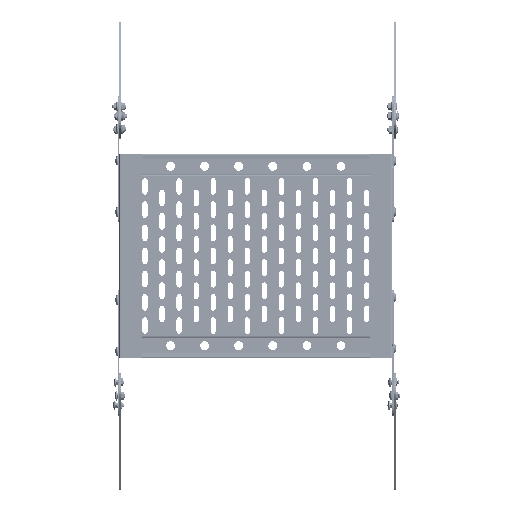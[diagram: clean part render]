
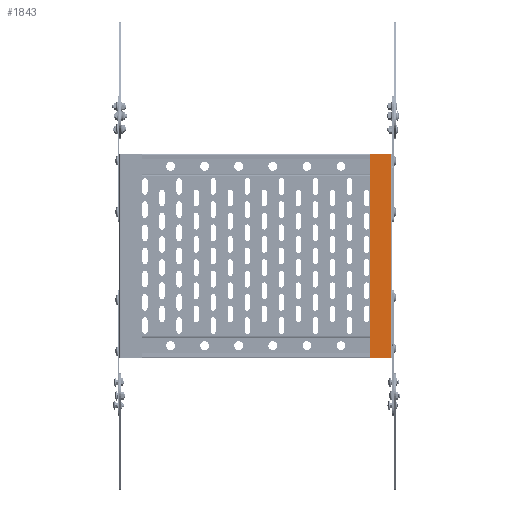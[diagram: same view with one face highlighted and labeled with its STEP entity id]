
A CAD part, front view. The second image highlights one B-rep face of the part: STEP entity #1843.
In plain terms, the highlighted planar face has unit normal (0, -1, 0).
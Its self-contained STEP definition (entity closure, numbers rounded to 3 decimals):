
#673 = CARTESIAN_POINT ( 'NONE',  ( -31.5, -1.5, -150. ) ) ;
#1843 = ADVANCED_FACE ( 'NONE', ( #28223 ), #20596, .T. ) ;
#1883 = LINE ( 'NONE', #12143, #2804 ) ;
#2804 = VECTOR ( 'NONE', #34987, 1000. ) ;
#3665 = EDGE_CURVE ( 'NONE', #23501, #5212, #5398, .T. ) ;
#5212 = VERTEX_POINT ( 'NONE', #17701 ) ;
#5398 = LINE ( 'NONE', #9052, #27387 ) ;
#6178 = DIRECTION ( 'NONE',  ( 1., 0., 0. ) ) ;
#9052 = CARTESIAN_POINT ( 'NONE',  ( 0., -1.5, -150. ) ) ;
#9196 = DIRECTION ( 'NONE',  ( 1., 0., 0. ) ) ;
#12143 = CARTESIAN_POINT ( 'NONE',  ( -31.5, -1.5, -150. ) ) ;
#12331 = AXIS2_PLACEMENT_3D ( 'NONE', #23362, #26390, #9196 ) ;
#13200 = EDGE_CURVE ( 'NONE', #23501, #17912, #1883, .T. ) ;
#15928 = VECTOR ( 'NONE', #27582, 1000. ) ;
#17256 = EDGE_CURVE ( 'NONE', #17912, #32124, #22694, .T. ) ;
#17701 = CARTESIAN_POINT ( 'NONE',  ( 0., -1.5, -150. ) ) ;
#17912 = VERTEX_POINT ( 'NONE', #18872 ) ;
#18872 = CARTESIAN_POINT ( 'NONE',  ( -31.5, -1.5, 150. ) ) ;
#20596 = PLANE ( 'NONE',  #12331 ) ;
#22694 = LINE ( 'NONE', #32902, #37092 ) ;
#23133 = CARTESIAN_POINT ( 'NONE',  ( 0., -1.5, 150. ) ) ;
#23362 = CARTESIAN_POINT ( 'NONE',  ( 0., -1.5, -150. ) ) ;
#23501 = VERTEX_POINT ( 'NONE', #673 ) ;
#24697 = CARTESIAN_POINT ( 'NONE',  ( 0., -1.5, -150. ) ) ;
#26390 = DIRECTION ( 'NONE',  ( 0., -1., 0. ) ) ;
#27106 = ORIENTED_EDGE ( 'NONE', *, *, #17256, .F. ) ;
#27387 = VECTOR ( 'NONE', #6178, 1000. ) ;
#27495 = EDGE_CURVE ( 'NONE', #5212, #32124, #31274, .T. ) ;
#27582 = DIRECTION ( 'NONE',  ( 0., 0., 1. ) ) ;
#28223 = FACE_OUTER_BOUND ( 'NONE', #30288, .T. ) ;
#29368 = ORIENTED_EDGE ( 'NONE', *, *, #27495, .T. ) ;
#30288 = EDGE_LOOP ( 'NONE', ( #27106, #36055, #31273, #29368 ) ) ;
#31273 = ORIENTED_EDGE ( 'NONE', *, *, #3665, .T. ) ;
#31274 = LINE ( 'NONE', #24697, #15928 ) ;
#32124 = VERTEX_POINT ( 'NONE', #23133 ) ;
#32902 = CARTESIAN_POINT ( 'NONE',  ( 0., -1.5, 150. ) ) ;
#34987 = DIRECTION ( 'NONE',  ( 0., 0., 1. ) ) ;
#35761 = DIRECTION ( 'NONE',  ( 1., 0., 0. ) ) ;
#36055 = ORIENTED_EDGE ( 'NONE', *, *, #13200, .F. ) ;
#37092 = VECTOR ( 'NONE', #35761, 1000. ) ;
